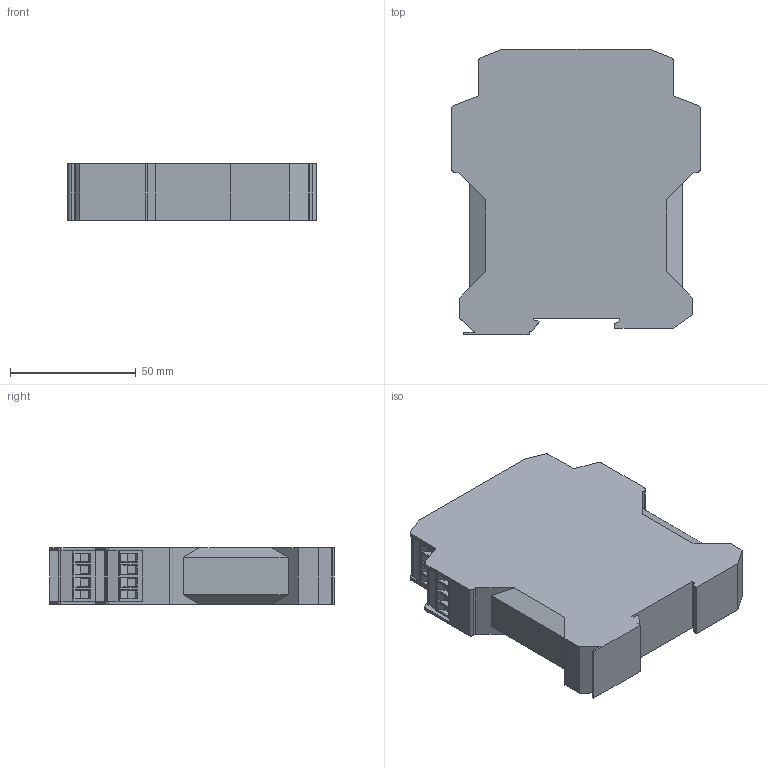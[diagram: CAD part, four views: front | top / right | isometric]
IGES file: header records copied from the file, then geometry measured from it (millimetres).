
Global section: file name: \\leuze.de\dfs01\TempdirOwen\lem\3DCAD_MSI_CM52B_01.igs; native system: NX V11.0; preprocessor: SIEMENS PLM Software NX 11.0; date: 20230508.080309; units: millimetre
Bounding box: 99 x 113.5 x 22.6 mm (x, y, z)
Surface area: 30611.5 mm2 (no closed solid volume)
Topology: 0 solids, 0 shells, 348 faces, 2026 edges, 2026 vertices
Faces by surface type: bspline 348
